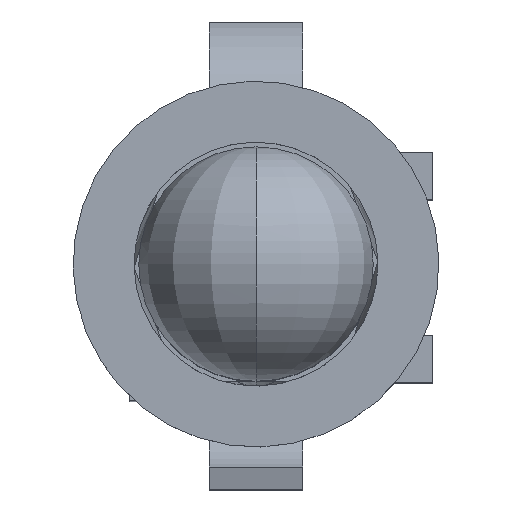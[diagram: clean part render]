
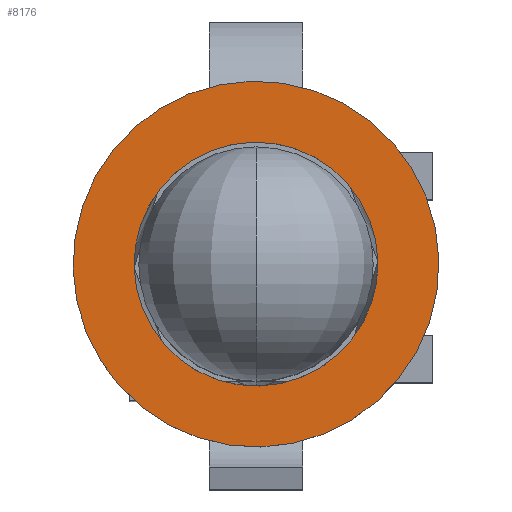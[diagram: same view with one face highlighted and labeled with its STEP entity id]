
A CAD part, top view. The second image highlights one B-rep face of the part: STEP entity #8176.
In plain terms, the highlighted free-form (B-spline) face has degree [3, 3] with [4, 4] control points.
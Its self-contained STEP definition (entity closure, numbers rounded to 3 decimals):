
#7163=CARTESIAN_POINT('',(0.,0.,0.7));
#7164=DIRECTION('',(0.,0.,1.));
#7165=DIRECTION('',(-1.,-0.027,0.));
#7166=AXIS2_PLACEMENT_3D('',#7163,#7164,#7165);
#7171=CARTESIAN_POINT('',(0.,0.,0.7));
#7172=DIRECTION('',(0.,0.,1.));
#7173=DIRECTION('',(1.,0.027,0.));
#7174=AXIS2_PLACEMENT_3D('',#7171,#7172,#7173);
#7179=CARTESIAN_POINT('',(0.,0.,0.7));
#7180=DIRECTION('',(0.,0.,-1.));
#7181=DIRECTION('',(-1.,-0.027,0.));
#7182=AXIS2_PLACEMENT_3D('',#7179,#7180,#7181);
#7187=CARTESIAN_POINT('',(0.,0.,0.7));
#7188=DIRECTION('',(0.,0.,-1.));
#7189=DIRECTION('',(1.,0.027,0.));
#7190=AXIS2_PLACEMENT_3D('',#7187,#7188,#7189);
#7847=CARTESIAN_POINT('',(-3.899,-0.104,
0.7));
#7848=CARTESIAN_POINT('',(3.899,0.104,
0.7));
#7849=VERTEX_POINT('',#7847);
#7850=VERTEX_POINT('',#7848);
#7855=CARTESIAN_POINT('',(-2.599,-0.069,
0.7));
#7856=CARTESIAN_POINT('',(2.599,0.069,
0.7));
#7857=VERTEX_POINT('',#7855);
#7858=VERTEX_POINT('',#7856);
#8148=CARTESIAN_POINT('',(3.946,4.163,0.7));
#8149=CARTESIAN_POINT('',(4.018,1.46,0.7));
#8150=CARTESIAN_POINT('',(4.091,-1.243,
0.7));
#8151=CARTESIAN_POINT('',(4.163,-3.947,
0.7));
#8152=CARTESIAN_POINT('',(1.243,4.091,0.7));
#8153=CARTESIAN_POINT('',(1.315,1.388,0.7));
#8154=CARTESIAN_POINT('',(1.388,-1.316,
0.7));
#8155=CARTESIAN_POINT('',(1.46,-4.019,
0.7));
#8156=CARTESIAN_POINT('',(-1.46,4.019,
0.7));
#8157=CARTESIAN_POINT('',(-1.388,1.316,
0.7));
#8158=CARTESIAN_POINT('',(-1.315,-1.388,
0.7));
#8159=CARTESIAN_POINT('',(-1.243,-4.091,
0.7));
#8160=CARTESIAN_POINT('',(-4.163,3.947,
0.7));
#8161=CARTESIAN_POINT('',(-4.091,1.243,
0.7));
#8162=CARTESIAN_POINT('',(-4.018,-1.46,
0.7));
#8163=CARTESIAN_POINT('',(-3.946,-4.163,
0.7));
#8164=B_SPLINE_SURFACE_WITH_KNOTS('',3,3,((#8148,#8149,#8150,#8151),(#8152,
#8153,#8154,#8155),(#8156,#8157,#8158,#8159),(#8160,#8161,#8162,#8163)),
.UNSPECIFIED.,.F.,.F.,.F.,(4,4),(4,4),(-4.056,4.056),(
-6.656,1.456),.UNSPECIFIED.);
#8165=ORIENTED_EDGE('',*,*,#8138,.F.);
#8167=ORIENTED_EDGE('',*,*,#8166,.F.);
#8168=EDGE_LOOP('',(#8165,#8167));
#8169=FACE_OUTER_BOUND('',#8168,.F.);
#8171=ORIENTED_EDGE('',*,*,#8170,.F.);
#8173=ORIENTED_EDGE('',*,*,#8172,.F.);
#8174=EDGE_LOOP('',(#8171,#8173));
#8175=FACE_BOUND('',#8174,.F.);
#7167=CIRCLE('',#7166,3.9);
#7175=CIRCLE('',#7174,3.9);
#7183=CIRCLE('',#7182,2.6);
#7191=CIRCLE('',#7190,2.6);
#8138=EDGE_CURVE('',#7849,#7850,#7167,.T.);
#8166=EDGE_CURVE('',#7850,#7849,#7175,.T.);
#8170=EDGE_CURVE('',#7857,#7858,#7183,.T.);
#8172=EDGE_CURVE('',#7858,#7857,#7191,.T.);
#8176=ADVANCED_FACE('',(#8169,#8175),#8164,.T.);
